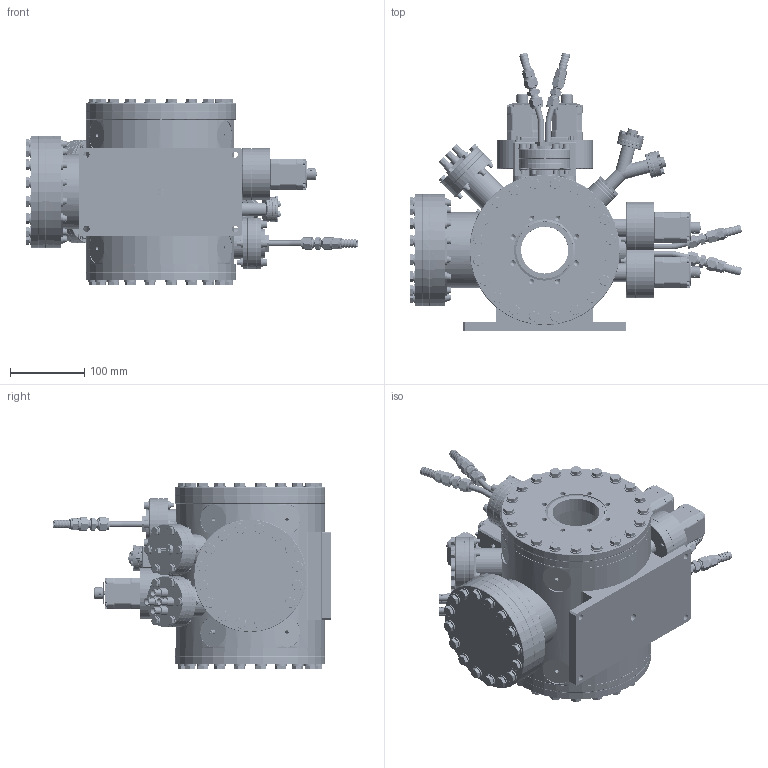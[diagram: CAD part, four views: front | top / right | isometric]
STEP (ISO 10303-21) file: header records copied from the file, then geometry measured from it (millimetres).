
FILE_DESCRIPTION(/* description */ ('IB-C30, 50W'),/* implementation_level */ '2;1');
FILE_NAME(/* name */ 'C:\WF\Designs\Slitter\18022 Sirius Pink Beam\IB-C30_50W.stp',/* time_stamp */ '2019-01-25T11:11:17+01:00',/* author */ ('JJ X-Ray A/S'),/* organization */ ('JJ X-RAY'),/* preprocessor_version */ 'ST-DEVELOPER v17',/* originating_system */ 'Autodesk Inventor 2018',/* authorisation */ '');
FILE_SCHEMA (('AUTOMOTIVE_DESIGN { 1 0 10303 214 3 1 1 }'));
Products named in the file (62): 18022 SIRIUS PB 0000; 18022 SIRIUS PB 0011; 18022 SIRIUS PB 0011_1; 18022 SIRIUS PB 0202; 18022 SIRIUS PB 0203; 18022 SIRIUS WB 0150; 18022 SIRIUS WB 0150_1; 18022 SIRIUS WB 0150_2; 18022 SIRIUS WB 0150_3; DN16 CF-M-Weldflange; DN16 CF-M-Weldflange_1; HN-0275S_SS316L; HN-0600R; HN-0275S_SS316L_1; HN-0275S_SS316L_2; GA-0800; DIN 912 - M6 x 10, A2; FH5-MHV4-40CF; 18022 SIRIUS PB 0123; sub d 15 pins; D-Connector screw; 0814017a3; Scalebutton Ø36; PK245M-01B_Derived; DIN 912 - M5 x 30, A2 A; PN-0600M; DIN 933 - M8  x 35 A2 A; DN 16CF Y; DN 16CF Y_1; F0133X075NM; F0133X075R; DN16CF Y-Pipe; F0133x000N; 220-CM12-C16; GA-0600; IFDGG091053; F0600X000N; DIN 933 - M6  x 35 A2; DIN 933 - M8  x 50 A2; DIN 125 - A 8,4 A2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
Assembly tree (394 placements, depth 3):
  18022 SIRIUS PB 0000
    18022 SIRIUS PB 0011
      18022 SIRIUS PB 0011_1
      18022 SIRIUS PB 0202
      18022 SIRIUS PB 0203
      18022 SIRIUS WB 0150
      18022 SIRIUS WB 0150_1
      18022 SIRIUS WB 0150_2
      18022 SIRIUS WB 0150_3
      DN16 CF-M-Weldflange
      DN16 CF-M-Weldflange_1
      HN-0275S_SS316L  x2
      HN-0600R
      HN-0275S_SS316L_1
      HN-0275S_SS316L_2
    0814017a3  x4
    PK245M-01B_Derived  x4
    Scalebutton Ø36  x4
    GA-0800  x2
    sub d 15 pins  x2
    D-Connector screw  x4
    DIN 912 - M6 x 10, A2  x2
    DIN 912 - M5 x 30, A2 A  x24
    FH5-MHV4-40CF
    DIN 933 - M6  x 35 A2  x12
    DIN 125 - A 6,4 A2  x24
    18022 SIRIUS PB 0123
    PN-0275M  x12
    PN-0600M  x8
    DIN 933 - M8  x 35 A2 A  x48
    DIN 125 - A 8,4 A2  x64
    GA-0133  x6
    DN 16CF Y  x2
      DN 16CF Y_1
      F0133X075NM
      F0133X075R
      DN16CF Y-Pipe
    F0133x000N
    220-CM12-C16
    GA-0275  x4
    GA-0600
    DIN 933 - M4  x 16 A2 A  x24
    DIN 988 - S4 x 8  x36
    DIN 933 - M4  x 12 A2 A  x12
    IFDGG091053
    F0600X000N
    DIN 933 - M8  x 50 A2  x16
    RF800X450  x2
    18022 Sirius 0112  x2
    18022 SIRIUS PB 0012  x2
      18022 SIRIUS PB 0012_1
      18022 SIRIUS PB 0113
      18022 SIRIUS PB 0130
      18022 SIRIUS PB 0130_1
    DIN 912 - M6 x 35, A2  x12
    18022 SIRIUS PB 0128
    DIN 912 - M4 x 40, A2  x3
    220-CM19-C16  x2
    SS-8M0-6  x4
    SS-6-HC-A-601  x4
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Bounding box: 447.31 x 375.1 x 251.9 mm (x, y, z)
Volume: 5643538 mm3; surface area: 1460979.5 mm2
Topology: 421 solids, 421 shells, 12979 faces, 34086 edges, 22847 vertices
Faces by surface type: plane 5896, cylinder 2639, cone 2326, bspline 1506, torus 454, sphere 158
Full cylindrical faces by diameter (mm): 0.5 x6, 0.991 x30, 1 x118, 1.8 x4, 2.032 x8, 2.156 x4, 2.388 x4, 2.413 x4, 2.459 x40, 2.487 x4, 2.54 x4, 2.729 x16, 2.82 x4, 3 x16, 3.048 x4, 3.242 x15, 3.621 x36, 4 x103, 4.369 x18, 4.4 x18, 4.445 x4, 4.5 x19, 4.917 x59, 5 x37, 5.459 x12, 5.9 x36, 6 x37, 6.2 x24, 6.35 x4, 6.4 x28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
Entity records: 155498 total; most frequent: CARTESIAN_POINT 45362, ORIENTED_EDGE 22174, DIRECTION 21665, EDGE_CURVE 11087, AXIS2_PLACEMENT_3D 8512, VERTEX_POINT 7697, EDGE_LOOP 4992, LINE 4641
